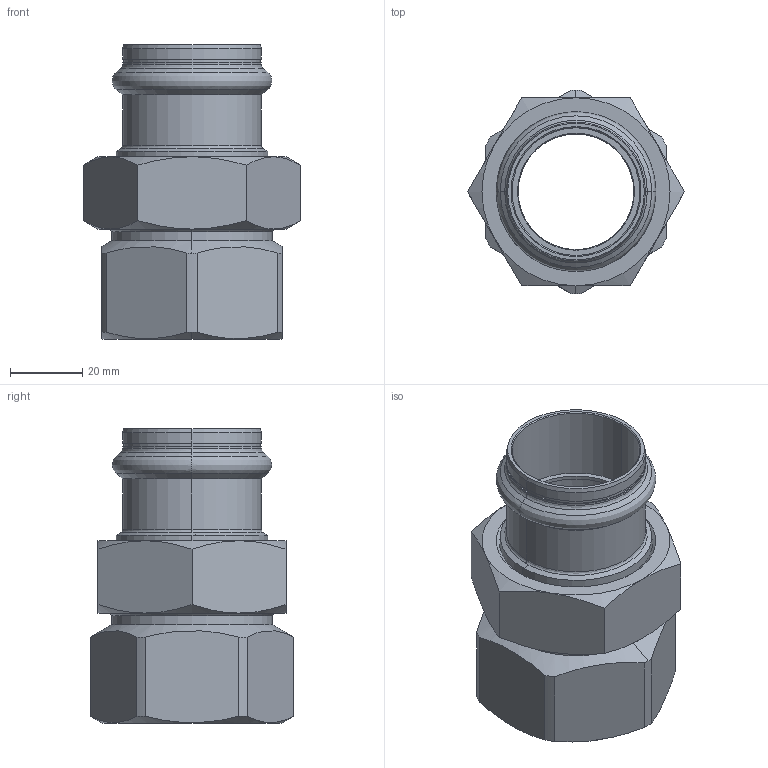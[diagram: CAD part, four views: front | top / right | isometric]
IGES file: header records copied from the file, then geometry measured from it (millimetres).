
Start section: Elysium IGES Interface
Global section: file name: C:\3d modellen sudo\C-Pr VP\SP8330GV\8330GVW35114.igs; native system: CoCreate Modeling 17.00A  17-Jun-2010; preprocessor: CoCreate IGES_3D V2.2; author: Unknown; organization: Unknown; date: 20130305.132135; units: millimetre
Bounding box: 60.04 x 56.2 x 81.5 mm (x, y, z)
Volume: 64641.7 mm3; surface area: 31870.7 mm2
Topology: 3 solids, 3 shells, 122 faces, 283 edges, 168 vertices
Faces by surface type: bspline 122
